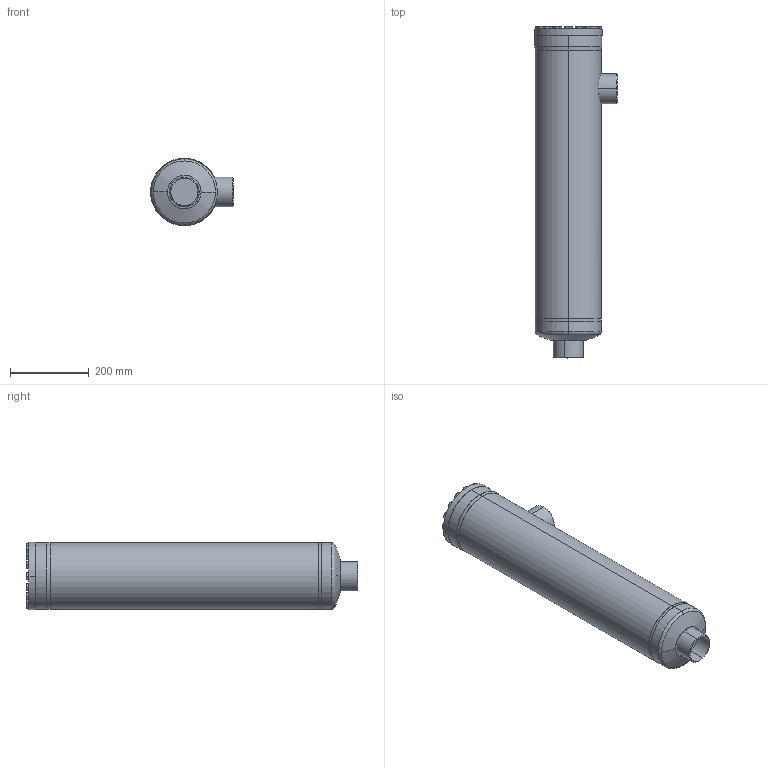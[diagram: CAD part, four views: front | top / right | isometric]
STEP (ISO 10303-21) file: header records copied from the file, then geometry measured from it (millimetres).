
FILE_DESCRIPTION (( 'STEP AP214' ), '1' );
FILE_NAME ('FT56700D17-DN65-8-4_PS40.STEP', '2010-09-13T08:34:41', ( 'Eckhard Grams' ), ( 'AWP Kälte Klima Armaturen GmbH' ), 'SwSTEP 2.0', 'SolidWorks 2002296', '' );
FILE_SCHEMA (( 'AUTOMOTIVE_DESIGN' ));
Length unit declared in the file: millimetre
Products named in the file (14): FT56700D17-DN65-8-4_PS40; Geh-kpl-FT-DN65-8-4_PS40_Standard; Gehäuse-FT-DN50-80_PS40_65-4; FT Boden-Führungsrohr DN65_PS25_Standard; bead-Bo-Fü-50-65_Standard; Führungsrohr-FT-DN65_Standard; Boden-FT-DN20-80_DN 50-3 bis 65 PN25; Rohrstutzen-FT-DN20-80_DN 65; Kopfstück-FT-DN50-80_PS40_Standard; bead65-Geh-Ko4_Standard; bead65-Geh-Bo1_Standard; FT Deckel-Schrauben-DN50-80_PS40_Standard; Deckel56700E17-DN50-80_PS40_Standard; Sechskantschraube-DIN933_M12x 30
Assembly tree (28 placements, depth 4):
  FT56700D17-DN65-8-4_PS40
    Geh-kpl-FT-DN65-8-4_PS40_Standard
      bead65-Geh-Bo1_Standard
      Kopfstück-FT-DN50-80_PS40_Standard
      bead65-Geh-Ko4_Standard
      Rohrstutzen-FT-DN20-80_DN 65
      FT Boden-Führungsrohr DN65_PS25_Standard
        Führungsrohr-FT-DN65_Standard
        bead-Bo-Fü-50-65_Standard
        Boden-FT-DN20-80_DN 50-3 bis 65 PN25
      Gehäuse-FT-DN50-80_PS40_65-4
    FT Deckel-Schrauben-DN50-80_PS40_Standard
      Sechskantschraube-DIN933_M12x 30  x16
      Deckel56700E17-DN50-80_PS40_Standard
Bounding box: 211 x 845.26 x 172 mm (x, y, z)
Volume: 3374980.8 mm3; surface area: 1039864.4 mm2
Topology: 25 solids, 25 shells, 650 faces, 1414 edges, 830 vertices
Faces by surface type: cone 286, plane 179, cylinder 163, bspline 12, torus 6, sphere 4
Entity records: 12805 total; most frequent: CARTESIAN_POINT 5765, DIRECTION 1442, ORIENTED_EDGE 1204, AXIS2_PLACEMENT_3D 619, EDGE_CURVE 602, VERTEX_POINT 380, EDGE_LOOP 358, CIRCLE 322
